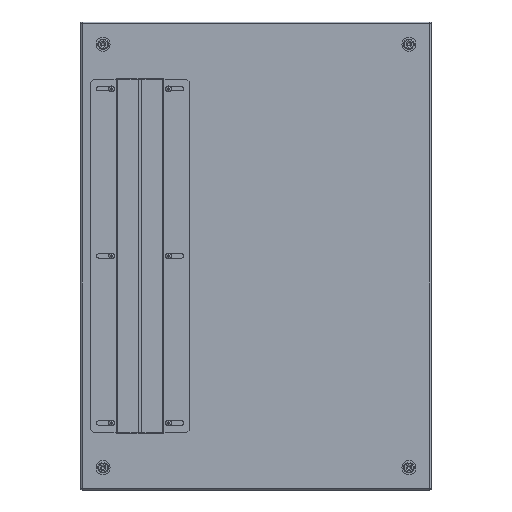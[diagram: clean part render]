
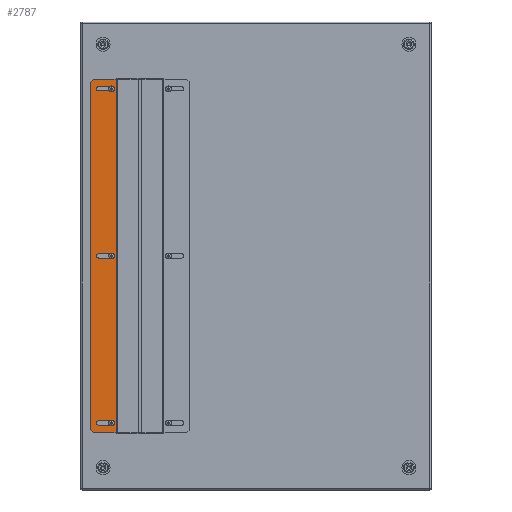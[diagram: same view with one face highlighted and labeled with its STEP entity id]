
A CAD part, top view. The second image highlights one B-rep face of the part: STEP entity #2787.
In plain terms, the highlighted planar face has unit normal (0, 0, 1).
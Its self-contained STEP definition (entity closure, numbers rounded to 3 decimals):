
#2787=ADVANCED_FACE('',(#16168,#16170,#16172,#16174),#16176,.T.);
#16168=FACE_BOUND('',#16169,.T.);
#16169=EDGE_LOOP('',(#23185,#23186,#23187,#23188,#23189,#23190,#23191,#23192,#23193,
#23194));
#16170=FACE_BOUND('',#16171,.T.);
#16171=EDGE_LOOP('',(#23195,#23196,#23197,#23198));
#16172=FACE_BOUND('',#16173,.T.);
#16173=EDGE_LOOP('',(#23199,#23200,#23201,#23202));
#16174=FACE_BOUND('',#16175,.T.);
#16175=EDGE_LOOP('',(#23203,#23204,#23205,#23206));
#16176=PLANE('',#16177);
#16177=AXIS2_PLACEMENT_3D('',#16178,#16179,#16180);
#16178=CARTESIAN_POINT('',(-2.8,301.,0.));
#16179=DIRECTION('',(0.,0.,1.));
#16180=DIRECTION('',(-1.,0.,0.));
#23185=ORIENTED_EDGE('',*,*,#26743,.F.);
#23186=ORIENTED_EDGE('',*,*,#26744,.T.);
#23187=ORIENTED_EDGE('',*,*,#26745,.F.);
#23188=ORIENTED_EDGE('',*,*,#26746,.F.);
#23189=ORIENTED_EDGE('',*,*,#26747,.F.);
#23190=ORIENTED_EDGE('',*,*,#26748,.F.);
#23191=ORIENTED_EDGE('',*,*,#26749,.F.);
#23192=ORIENTED_EDGE('',*,*,#26750,.T.);
#23193=ORIENTED_EDGE('',*,*,#26751,.F.);
#23194=ORIENTED_EDGE('',*,*,#26752,.F.);
#23195=ORIENTED_EDGE('',*,*,#26753,.T.);
#23196=ORIENTED_EDGE('',*,*,#26754,.T.);
#23197=ORIENTED_EDGE('',*,*,#26755,.T.);
#23198=ORIENTED_EDGE('',*,*,#26756,.T.);
#23199=ORIENTED_EDGE('',*,*,#26757,.T.);
#23200=ORIENTED_EDGE('',*,*,#26758,.T.);
#23201=ORIENTED_EDGE('',*,*,#26759,.T.);
#23202=ORIENTED_EDGE('',*,*,#26760,.T.);
#23203=ORIENTED_EDGE('',*,*,#26761,.T.);
#23204=ORIENTED_EDGE('',*,*,#26762,.T.);
#23205=ORIENTED_EDGE('',*,*,#26763,.T.);
#23206=ORIENTED_EDGE('',*,*,#26764,.T.);
#26743=EDGE_CURVE('',#32453,#32454,#32455,.F.);
#26744=EDGE_CURVE('',#32453,#32456,#32457,.T.);
#26745=EDGE_CURVE('',#32458,#32456,#32459,.F.);
#26746=EDGE_CURVE('',#32460,#32458,#32461,.F.);
#26747=EDGE_CURVE('',#32462,#32460,#32463,.F.);
#26748=EDGE_CURVE('',#32464,#32462,#32465,.T.);
#26749=EDGE_CURVE('',#32466,#32464,#32467,.T.);
#26750=EDGE_CURVE('',#32466,#32468,#32469,.T.);
#26751=EDGE_CURVE('',#32470,#32468,#32471,.F.);
#26752=EDGE_CURVE('',#32454,#32470,#32472,.F.);
#26753=EDGE_CURVE('',#32473,#32474,#32475,.F.);
#26754=EDGE_CURVE('',#32474,#32476,#32477,.F.);
#26755=EDGE_CURVE('',#32476,#32478,#32479,.F.);
#26756=EDGE_CURVE('',#32478,#32473,#32480,.F.);
#26757=EDGE_CURVE('',#32481,#32482,#32483,.F.);
#26758=EDGE_CURVE('',#32482,#32484,#32485,.F.);
#26759=EDGE_CURVE('',#32484,#32486,#32487,.F.);
#26760=EDGE_CURVE('',#32486,#32481,#32488,.F.);
#26761=EDGE_CURVE('',#32489,#32490,#32491,.F.);
#26762=EDGE_CURVE('',#32490,#32492,#32493,.F.);
#26763=EDGE_CURVE('',#32492,#32494,#32495,.F.);
#26764=EDGE_CURVE('',#32494,#32489,#32496,.F.);
#32453=VERTEX_POINT('',#47055);
#32454=VERTEX_POINT('',#47056);
#32455=CIRCLE('',#47057,2.);
#32456=VERTEX_POINT('',#47061);
#32457=LINE('',#47062,#47063);
#32458=VERTEX_POINT('',#47065);
#32459=CIRCLE('',#47066,2.);
#32460=VERTEX_POINT('',#47070);
#32461=LINE('',#47071,#47072);
#32462=VERTEX_POINT('',#47074);
#32463=CIRCLE('',#47075,2.);
#32464=VERTEX_POINT('',#47079);
#32465=LINE('',#47080,#47081);
#32466=VERTEX_POINT('',#47083);
#32467=LINE('',#47084,#47085);
#32468=VERTEX_POINT('',#47087);
#32469=LINE('',#47088,#47089);
#32470=VERTEX_POINT('',#47091);
#32471=CIRCLE('',#47092,2.);
#32472=LINE('',#47096,#47097);
#32473=VERTEX_POINT('',#47099);
#32474=VERTEX_POINT('',#47100);
#32475=CIRCLE('',#47101,3.5);
#32476=VERTEX_POINT('',#47105);
#32477=LINE('',#47106,#47107);
#32478=VERTEX_POINT('',#47109);
#32479=CIRCLE('',#47110,3.5);
#32480=LINE('',#47114,#47115);
#32481=VERTEX_POINT('',#47117);
#32482=VERTEX_POINT('',#47118);
#32483=LINE('',#47119,#47120);
#32484=VERTEX_POINT('',#47122);
#32485=CIRCLE('',#47123,3.5);
#32486=VERTEX_POINT('',#47127);
#32487=LINE('',#47128,#47129);
#32488=CIRCLE('',#47131,3.5);
#32489=VERTEX_POINT('',#47135);
#32490=VERTEX_POINT('',#47136);
#32491=CIRCLE('',#47137,3.5);
#32492=VERTEX_POINT('',#47141);
#32493=LINE('',#47142,#47143);
#32494=VERTEX_POINT('',#47145);
#32495=CIRCLE('',#47146,3.5);
#32496=LINE('',#47150,#47151);
#47055=CARTESIAN_POINT('',(-46.,295.172,0.));
#47056=CARTESIAN_POINT('',(-45.414,296.586,0.));
#47057=AXIS2_PLACEMENT_3D('',#47058,#47059,#47060);
#47058=CARTESIAN_POINT('',(-44.,295.172,0.));
#47059=DIRECTION('',(0.,0.,1.));
#47060=DIRECTION('',(-0.707,0.707,0.));
#47061=CARTESIAN_POINT('',(-46.,-295.172,0.));
#47062=CARTESIAN_POINT('',(-46.,295.172,0.));
#47063=VECTOR('',#47064,1.);
#47064=DIRECTION('',(0.,-1.,0.));
#47065=CARTESIAN_POINT('',(-45.414,-296.586,0.));
#47066=AXIS2_PLACEMENT_3D('',#47067,#47068,#47069);
#47067=CARTESIAN_POINT('',(-44.,-295.172,0.));
#47068=DIRECTION('',(0.,0.,1.));
#47069=DIRECTION('',(-1.,0.,0.));
#47070=CARTESIAN_POINT('',(-41.586,-300.414,0.));
#47071=CARTESIAN_POINT('',(-45.414,-296.586,0.));
#47072=VECTOR('',#47073,1.);
#47073=DIRECTION('',(0.707,-0.707,0.));
#47074=CARTESIAN_POINT('',(-40.172,-301.,0.));
#47075=AXIS2_PLACEMENT_3D('',#47076,#47077,#47078);
#47076=CARTESIAN_POINT('',(-40.172,-299.,0.));
#47077=DIRECTION('',(0.,0.,1.));
#47078=DIRECTION('',(-0.707,-0.707,0.));
#47079=CARTESIAN_POINT('',(-2.8,-301.,0.));
#47080=CARTESIAN_POINT('',(-2.8,-301.,0.));
#47081=VECTOR('',#47082,1.);
#47082=DIRECTION('',(-1.,0.,0.));
#47083=CARTESIAN_POINT('',(-2.8,301.,0.));
#47084=CARTESIAN_POINT('',(-2.8,301.,0.));
#47085=VECTOR('',#47086,1.);
#47086=DIRECTION('',(0.,-1.,0.));
#47087=CARTESIAN_POINT('',(-40.172,301.,0.));
#47088=CARTESIAN_POINT('',(-2.8,301.,0.));
#47089=VECTOR('',#47090,1.);
#47090=DIRECTION('',(-1.,0.,0.));
#47091=CARTESIAN_POINT('',(-41.586,300.414,0.));
#47092=AXIS2_PLACEMENT_3D('',#47093,#47094,#47095);
#47093=CARTESIAN_POINT('',(-40.172,299.,0.));
#47094=DIRECTION('',(0.,0.,1.));
#47095=DIRECTION('',(0.,1.,0.));
#47096=CARTESIAN_POINT('',(-41.586,300.414,0.));
#47097=VECTOR('',#47098,1.);
#47098=DIRECTION('',(-0.707,-0.707,0.));
#47099=CARTESIAN_POINT('',(-33.,-288.,0.));
#47100=CARTESIAN_POINT('',(-33.,-281.,0.));
#47101=AXIS2_PLACEMENT_3D('',#47102,#47103,#47104);
#47102=CARTESIAN_POINT('',(-33.,-284.5,0.));
#47103=DIRECTION('',(0.,0.,1.));
#47104=DIRECTION('',(0.,1.,0.));
#47105=CARTESIAN_POINT('',(-8.5,-281.,0.));
#47106=CARTESIAN_POINT('',(-8.5,-281.,0.));
#47107=VECTOR('',#47108,1.);
#47108=DIRECTION('',(-1.,0.,0.));
#47109=CARTESIAN_POINT('',(-8.5,-288.,0.));
#47110=AXIS2_PLACEMENT_3D('',#47111,#47112,#47113);
#47111=CARTESIAN_POINT('',(-8.5,-284.5,0.));
#47112=DIRECTION('',(0.,0.,1.));
#47113=DIRECTION('',(0.,-1.,0.));
#47114=CARTESIAN_POINT('',(-33.,-288.,0.));
#47115=VECTOR('',#47116,1.);
#47116=DIRECTION('',(1.,0.,0.));
#47117=CARTESIAN_POINT('',(-8.5,281.,0.));
#47118=CARTESIAN_POINT('',(-33.,281.,0.));
#47119=CARTESIAN_POINT('',(-33.,281.,0.));
#47120=VECTOR('',#47121,1.);
#47121=DIRECTION('',(1.,0.,0.));
#47122=CARTESIAN_POINT('',(-33.,288.,0.));
#47123=AXIS2_PLACEMENT_3D('',#47124,#47125,#47126);
#47124=CARTESIAN_POINT('',(-33.,284.5,0.));
#47125=DIRECTION('',(0.,0.,1.));
#47126=DIRECTION('',(0.,1.,0.));
#47127=CARTESIAN_POINT('',(-8.5,288.,0.));
#47128=CARTESIAN_POINT('',(-8.5,288.,0.));
#47129=VECTOR('',#47130,1.);
#47130=DIRECTION('',(-1.,0.,0.));
#47131=AXIS2_PLACEMENT_3D('',#47132,#47133,#47134);
#47132=CARTESIAN_POINT('',(-8.5,284.5,0.));
#47133=DIRECTION('',(0.,0.,1.));
#47134=DIRECTION('',(0.,-1.,0.));
#47135=CARTESIAN_POINT('',(-33.,-3.5,0.));
#47136=CARTESIAN_POINT('',(-33.,3.5,0.));
#47137=AXIS2_PLACEMENT_3D('',#47138,#47139,#47140);
#47138=CARTESIAN_POINT('',(-33.,0.,0.));
#47139=DIRECTION('',(0.,0.,1.));
#47140=DIRECTION('',(0.,1.,0.));
#47141=CARTESIAN_POINT('',(-8.5,3.5,0.));
#47142=CARTESIAN_POINT('',(-8.5,3.5,0.));
#47143=VECTOR('',#47144,1.);
#47144=DIRECTION('',(-1.,0.,0.));
#47145=CARTESIAN_POINT('',(-8.5,-3.5,0.));
#47146=AXIS2_PLACEMENT_3D('',#47147,#47148,#47149);
#47147=CARTESIAN_POINT('',(-8.5,0.,0.));
#47148=DIRECTION('',(0.,0.,1.));
#47149=DIRECTION('',(0.,-1.,0.));
#47150=CARTESIAN_POINT('',(-33.,-3.5,0.));
#47151=VECTOR('',#47152,1.);
#47152=DIRECTION('',(1.,0.,0.));
